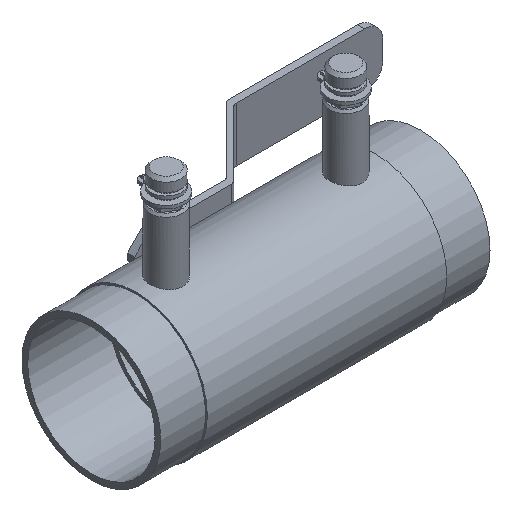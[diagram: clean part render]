
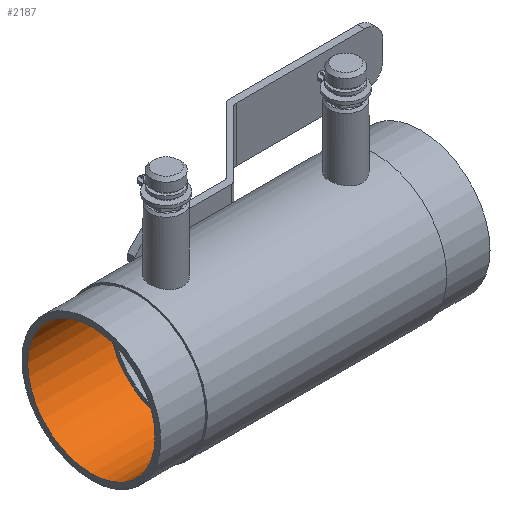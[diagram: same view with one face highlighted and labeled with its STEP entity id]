
A CAD part, isometric view. The second image highlights one B-rep face of the part: STEP entity #2187.
In plain terms, the highlighted cylindrical face has radius 27.026 mm (diameter 54.051 mm), a full revolution.
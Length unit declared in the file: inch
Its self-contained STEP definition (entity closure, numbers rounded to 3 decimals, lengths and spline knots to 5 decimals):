
#161=FACE_OUTER_BOUND('',#278,.T.);
#278=EDGE_LOOP('',(#1424,#1425,#1426,#1427));
#420=LINE('',#3233,#618);
#618=VECTOR('',#2569,1.064);
#817=CIRCLE('',#2327,1.064);
#818=CIRCLE('',#2328,1.064);
#920=VERTEX_POINT('',#3230);
#921=VERTEX_POINT('',#3232);
#1116=EDGE_CURVE('',#920,#920,#817,.T.);
#1117=EDGE_CURVE('',#920,#921,#420,.T.);
#1118=EDGE_CURVE('',#921,#921,#818,.T.);
#1424=ORIENTED_EDGE('',*,*,#1116,.F.);
#1425=ORIENTED_EDGE('',*,*,#1117,.T.);
#1426=ORIENTED_EDGE('',*,*,#1118,.F.);
#1427=ORIENTED_EDGE('',*,*,#1117,.F.);
#2035=CYLINDRICAL_SURFACE('',#2326,1.064);
#2187=ADVANCED_FACE('',(#161),#2035,.F.);
#2326=AXIS2_PLACEMENT_3D('',#3229,#2565,#2566);
#2327=AXIS2_PLACEMENT_3D('',#3231,#2567,#2568);
#2328=AXIS2_PLACEMENT_3D('',#3234,#2570,#2571);
#2565=DIRECTION('center_axis',(-1.,0.,0.));
#2566=DIRECTION('ref_axis',(0.,0.,1.));
#2567=DIRECTION('center_axis',(1.,0.,0.));
#2568=DIRECTION('ref_axis',(0.,0.,1.));
#2569=DIRECTION('',(1.,0.,0.));
#2570=DIRECTION('center_axis',(-1.,0.,0.));
#2571=DIRECTION('ref_axis',(0.,0.,1.));
#3229=CARTESIAN_POINT('Origin',(-2.75,0.,0.));
#3230=CARTESIAN_POINT('',(-2.75,0.,-1.064));
#3231=CARTESIAN_POINT('Origin',(-2.75,0.,0.));
#3232=CARTESIAN_POINT('',(-1.39,0.,-1.064));
#3233=CARTESIAN_POINT('',(-2.75,0.,-1.064));
#3234=CARTESIAN_POINT('Origin',(-1.39,0.,0.));
